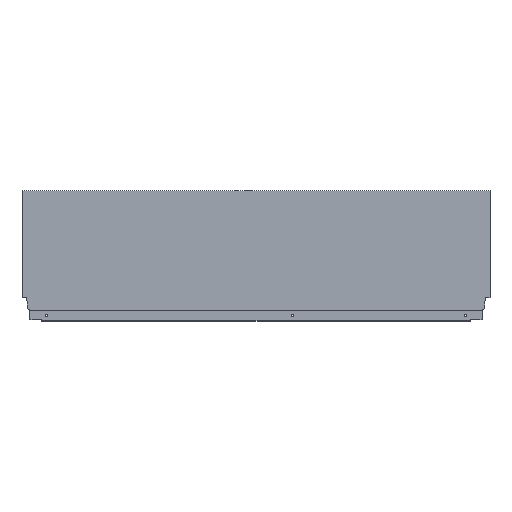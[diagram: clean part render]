
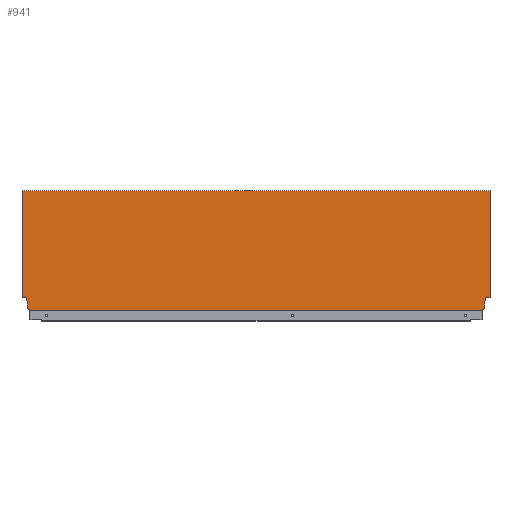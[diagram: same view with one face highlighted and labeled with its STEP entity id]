
A CAD part, top view. The second image highlights one B-rep face of the part: STEP entity #941.
In plain terms, the highlighted planar face has unit normal (0, 0, 1).
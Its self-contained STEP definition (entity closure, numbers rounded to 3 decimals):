
#82 = EDGE_CURVE ( 'NONE', #671, #859, #1076, .T. ) ;
#83 = EDGE_CURVE ( 'NONE', #671, #681, #1068, .T. ) ;
#84 = EDGE_CURVE ( 'NONE', #749, #826, #1064, .T. ) ;
#86 = EDGE_CURVE ( 'NONE', #681, #734, #1060, .T. ) ;
#87 = EDGE_CURVE ( 'NONE', #826, #860, #1058, .T. ) ;
#88 = EDGE_CURVE ( 'NONE', #845, #860, #1056, .T. ) ;
#89 = EDGE_CURVE ( 'NONE', #734, #749, #1054, .T. ) ;
#90 = EDGE_CURVE ( 'NONE', #797, #866, #1052, .T. ) ;
#91 = EDGE_CURVE ( 'NONE', #850, #859, #1050, .T. ) ;
#92 = EDGE_CURVE ( 'NONE', #696, #797, #1048, .T. ) ;
#93 = EDGE_CURVE ( 'NONE', #866, #850, #1046, .T. ) ;
#94 = EDGE_CURVE ( 'NONE', #756, #696, #1044, .T. ) ;
#95 = EDGE_CURVE ( 'NONE', #854, #756, #1042, .T. ) ;
#96 = EDGE_CURVE ( 'NONE', #845, #854, #1040, .T. ) ;
#182 = FACE_OUTER_BOUND ( 'NONE', #1442, .T. ) ;
#217 = PLANE ( 'NONE',  #507 ) ;
#223 = CARTESIAN_POINT ( 'NONE',  ( -767., 0., 7.5 ) ) ;
#237 = CARTESIAN_POINT ( 'NONE',  ( -759.94, 21.2, 7.5 ) ) ;
#301 = CARTESIAN_POINT ( 'NONE',  ( -767., 21.2, 7.5 ) ) ;
#303 = CARTESIAN_POINT ( 'NONE',  ( -13.004, 0., 7.5 ) ) ;
#309 = CARTESIAN_POINT ( 'NONE',  ( -8.9, 10.765, 7.5 ) ) ;
#315 = CARTESIAN_POINT ( 'NONE',  ( 0., 196.7, 7.5 ) ) ;
#321 = CARTESIAN_POINT ( 'NONE',  ( -13.004, 1.146, 7.5 ) ) ;
#327 = CARTESIAN_POINT ( 'NONE',  ( -767., 196.7, 7.5 ) ) ;
#328 = CARTESIAN_POINT ( 'NONE',  ( 0., 21.2, 7.5 ) ) ;
#334 = CARTESIAN_POINT ( 'NONE',  ( -758.1, 10.765, 7.5 ) ) ;
#337 = CARTESIAN_POINT ( 'NONE',  ( -8.9, 2.64, 7.5 ) ) ;
#365 = CARTESIAN_POINT ( 'NONE',  ( -753.996, 0., 7.5 ) ) ;
#378 = CARTESIAN_POINT ( 'NONE',  ( -753.996, 1.146, 7.5 ) ) ;
#397 = CARTESIAN_POINT ( 'NONE',  ( -7.06, 21.2, 7.5 ) ) ;
#421 = CARTESIAN_POINT ( 'NONE',  ( -758.1, 2.64, 7.5 ) ) ;
#464 = DIRECTION ( 'NONE',  ( 1., 0., 0. ) ) ;
#466 = DIRECTION ( 'NONE',  ( 0., 0., 1. ) ) ;
#507 = AXIS2_PLACEMENT_3D ( 'NONE', #223, #466, #464 ) ;
#652 = DIRECTION ( 'NONE',  ( 1., 0., 0. ) ) ;
#653 = CARTESIAN_POINT ( 'NONE',  ( -767., 196.7, 7.5 ) ) ;
#656 = DIRECTION ( 'NONE',  ( 0., -1., 0. ) ) ;
#657 = CARTESIAN_POINT ( 'NONE',  ( 0., 0., 7.5 ) ) ;
#658 = DIRECTION ( 'NONE',  ( -1., 0., 0. ) ) ;
#660 = CARTESIAN_POINT ( 'NONE',  ( 0., 21.2, 7.5 ) ) ;
#661 = DIRECTION ( 'NONE',  ( -0.94, -0.342, 0. ) ) ;
#663 = CARTESIAN_POINT ( 'NONE',  ( -8.9, 2.64, 7.5 ) ) ;
#665 = DIRECTION ( 'NONE',  ( -0.174, -0.985, 0. ) ) ;
#666 = CARTESIAN_POINT ( 'NONE',  ( -7.06, 21.2, 7.5 ) ) ;
#669 = DIRECTION ( 'NONE',  ( 0., -1., 0. ) ) ;
#670 = CARTESIAN_POINT ( 'NONE',  ( -13.004, 1.146, 7.5 ) ) ;
#671 = VERTEX_POINT ( 'NONE', #365 ) ;
#672 = DIRECTION ( 'NONE',  ( 0., -1., 0. ) ) ;
#673 = CARTESIAN_POINT ( 'NONE',  ( -8.9, 10.765, 7.5 ) ) ;
#675 = DIRECTION ( 'NONE',  ( 0., 1., 0. ) ) ;
#677 = CARTESIAN_POINT ( 'NONE',  ( -758.1, 10.765, 7.5 ) ) ;
#679 = DIRECTION ( 'NONE',  ( 0., -1., 0. ) ) ;
#680 = CARTESIAN_POINT ( 'NONE',  ( -767., 0., 7.5 ) ) ;
#681 = VERTEX_POINT ( 'NONE', #378 ) ;
#682 = DIRECTION ( 'NONE',  ( -1., 0., 0. ) ) ;
#684 = CARTESIAN_POINT ( 'NONE',  ( -772., 21.2, 7.5 ) ) ;
#686 = DIRECTION ( 'NONE',  ( -0.94, 0.342, 0. ) ) ;
#688 = CARTESIAN_POINT ( 'NONE',  ( -758.1, 2.64, 7.5 ) ) ;
#694 = DIRECTION ( 'NONE',  ( -0.174, 0.985, 0. ) ) ;
#695 = CARTESIAN_POINT ( 'NONE',  ( -759.94, 21.2, 7.5 ) ) ;
#696 = VERTEX_POINT ( 'NONE', #397 ) ;
#699 = DIRECTION ( 'NONE',  ( 0., 1., 0. ) ) ;
#701 = DIRECTION ( 'NONE',  ( 1., 0., 0. ) ) ;
#702 = CARTESIAN_POINT ( 'NONE',  ( -767., 0., 7.5 ) ) ;
#712 = CARTESIAN_POINT ( 'NONE',  ( -753.996, 1.146, 7.5 ) ) ;
#734 = VERTEX_POINT ( 'NONE', #421 ) ;
#749 = VERTEX_POINT ( 'NONE', #334 ) ;
#756 = VERTEX_POINT ( 'NONE', #328 ) ;
#797 = VERTEX_POINT ( 'NONE', #309 ) ;
#826 = VERTEX_POINT ( 'NONE', #237 ) ;
#845 = VERTEX_POINT ( 'NONE', #327 ) ;
#850 = VERTEX_POINT ( 'NONE', #321 ) ;
#854 = VERTEX_POINT ( 'NONE', #315 ) ;
#859 = VERTEX_POINT ( 'NONE', #303 ) ;
#860 = VERTEX_POINT ( 'NONE', #301 ) ;
#866 = VERTEX_POINT ( 'NONE', #337 ) ;
#941 = ADVANCED_FACE ( 'NONE', ( #182 ), #217, .T. ) ;
#1039 = VECTOR ( 'NONE', #652, 1000. ) ;
#1040 = LINE ( 'NONE', #653, #1039 ) ;
#1041 = VECTOR ( 'NONE', #656, 1000. ) ;
#1042 = LINE ( 'NONE', #657, #1041 ) ;
#1043 = VECTOR ( 'NONE', #658, 1000. ) ;
#1044 = LINE ( 'NONE', #660, #1043 ) ;
#1045 = VECTOR ( 'NONE', #661, 1000. ) ;
#1046 = LINE ( 'NONE', #663, #1045 ) ;
#1047 = VECTOR ( 'NONE', #665, 1000. ) ;
#1048 = LINE ( 'NONE', #666, #1047 ) ;
#1049 = VECTOR ( 'NONE', #669, 1000. ) ;
#1050 = LINE ( 'NONE', #670, #1049 ) ;
#1051 = VECTOR ( 'NONE', #672, 1000. ) ;
#1052 = LINE ( 'NONE', #673, #1051 ) ;
#1053 = VECTOR ( 'NONE', #675, 1000. ) ;
#1054 = LINE ( 'NONE', #677, #1053 ) ;
#1055 = VECTOR ( 'NONE', #679, 1000. ) ;
#1056 = LINE ( 'NONE', #680, #1055 ) ;
#1057 = VECTOR ( 'NONE', #682, 1000. ) ;
#1058 = LINE ( 'NONE', #684, #1057 ) ;
#1059 = VECTOR ( 'NONE', #686, 1000. ) ;
#1060 = LINE ( 'NONE', #688, #1059 ) ;
#1063 = VECTOR ( 'NONE', #694, 1000. ) ;
#1064 = LINE ( 'NONE', #695, #1063 ) ;
#1066 = VECTOR ( 'NONE', #699, 1000. ) ;
#1068 = LINE ( 'NONE', #712, #1066 ) ;
#1070 = VECTOR ( 'NONE', #701, 1000. ) ;
#1076 = LINE ( 'NONE', #702, #1070 ) ;
#1307 = ORIENTED_EDGE ( 'NONE', *, *, #84, .F. ) ;
#1330 = ORIENTED_EDGE ( 'NONE', *, *, #89, .F. ) ;
#1332 = ORIENTED_EDGE ( 'NONE', *, *, #91, .F. ) ;
#1339 = ORIENTED_EDGE ( 'NONE', *, *, #83, .F. ) ;
#1341 = ORIENTED_EDGE ( 'NONE', *, *, #96, .F. ) ;
#1342 = ORIENTED_EDGE ( 'NONE', *, *, #82, .T. ) ;
#1345 = ORIENTED_EDGE ( 'NONE', *, *, #87, .F. ) ;
#1350 = ORIENTED_EDGE ( 'NONE', *, *, #86, .F. ) ;
#1354 = ORIENTED_EDGE ( 'NONE', *, *, #92, .F. ) ;
#1355 = ORIENTED_EDGE ( 'NONE', *, *, #94, .F. ) ;
#1356 = ORIENTED_EDGE ( 'NONE', *, *, #95, .F. ) ;
#1382 = ORIENTED_EDGE ( 'NONE', *, *, #88, .T. ) ;
#1425 = ORIENTED_EDGE ( 'NONE', *, *, #93, .F. ) ;
#1426 = ORIENTED_EDGE ( 'NONE', *, *, #90, .F. ) ;
#1442 = EDGE_LOOP ( 'NONE', ( #1382, #1345, #1307, #1330, #1350, #1339, #1342, #1332, #1425, #1426, #1354, #1355, #1356, #1341 ) ) ;
